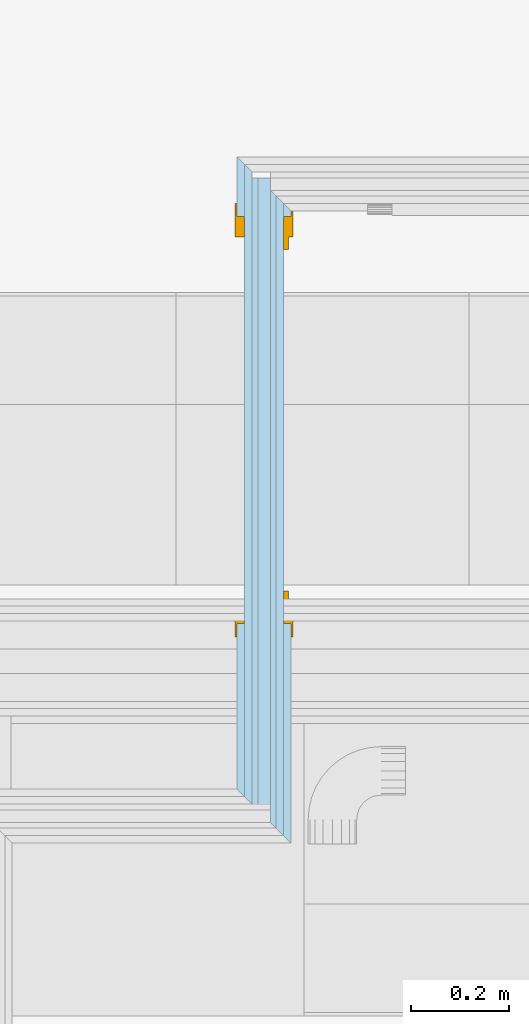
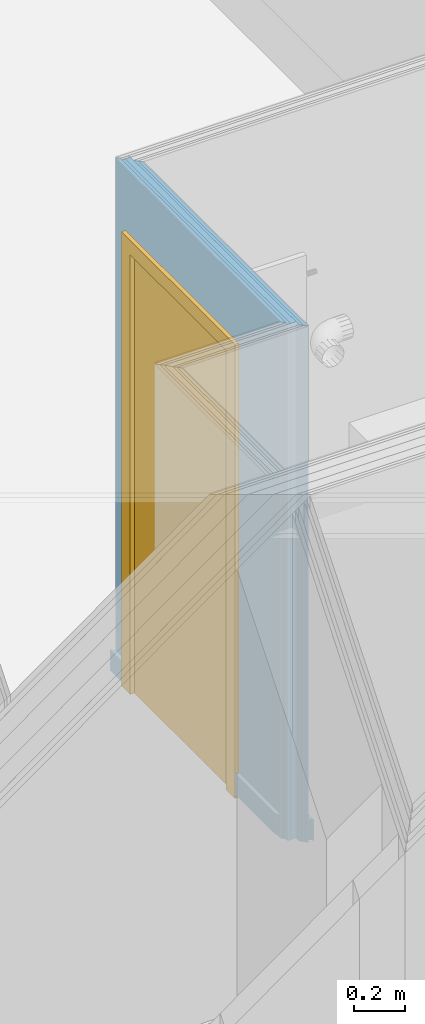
# One storey, part 90 of 169: 1 door, 1 opening, 1 element without a shape of its own, plus 7 elements that do not belong to this part.
"""IFC2X3 building model written with IfcOpenShell, lengths in metres."""

from ifc_helpers import new_model, entity, si_unit, converted_unit, derived_unit, money_unit, direction, frame, frame_2d, origin_with_axes, place, context, subcontext, project, spatial, polyline, rectangle, outline, extrude, faceted_brep, material, type_object, element, fill, aggregate, save


model = new_model("IFC2X3")

# Units and contexts
model_context = context("Model", 3, precision=1e-05, world=origin_with_axes(), true_north=direction((0.0, 1.0)))
body_context = subcontext(model_context, "Body", "Model", "MODEL_VIEW", scale=1.0)
ifc_project = project(units=[si_unit("LENGTHUNIT", "METRE"), si_unit("AREAUNIT", "SQUARE_METRE"), si_unit("VOLUMEUNIT", "CUBIC_METRE"), si_unit("ABSORBEDDOSEUNIT", "GRAY"), si_unit("AMOUNTOFSUBSTANCEUNIT", "MOLE"), si_unit("DOSEEQUIVALENTUNIT", "SIEVERT"), si_unit("ELECTRICCAPACITANCEUNIT", "FARAD"), si_unit("ELECTRICCHARGEUNIT", "COULOMB"), si_unit("ELECTRICCONDUCTANCEUNIT", "SIEMENS"), si_unit("ELECTRICCURRENTUNIT", "AMPERE"), si_unit("ELECTRICRESISTANCEUNIT", "OHM"), si_unit("ELECTRICVOLTAGEUNIT", "VOLT"), si_unit("ENERGYUNIT", "JOULE"), si_unit("FORCEUNIT", "NEWTON"), si_unit("FREQUENCYUNIT", "HERTZ"), si_unit("ILLUMINANCEUNIT", "LUX"), si_unit("INDUCTANCEUNIT", "HENRY"), si_unit("LUMINOUSFLUXUNIT", "LUMEN"), si_unit("LUMINOUSINTENSITYUNIT", "CANDELA"), si_unit("MAGNETICFLUXDENSITYUNIT", "TESLA"), si_unit("MAGNETICFLUXUNIT", "WEBER"), si_unit("MASSUNIT", "GRAM"), converted_unit("PLANEANGLEUNIT", "degree", entity("IfcReal", 0.0174532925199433), si_unit("PLANEANGLEUNIT", "RADIAN"), dimensions=[0, 0, 0, 0, 0, 0, 0]), si_unit("POWERUNIT", "WATT"), si_unit("PRESSUREUNIT", "PASCAL"), si_unit("RADIOACTIVITYUNIT", "BECQUEREL"), si_unit("SOLIDANGLEUNIT", "STERADIAN"), si_unit("THERMODYNAMICTEMPERATUREUNIT", "KELVIN"), si_unit("TIMEUNIT", "SECOND"), derived_unit("ACCELERATIONUNIT", [(si_unit("LENGTHUNIT", "METRE"), 1), (si_unit("TIMEUNIT", "SECOND"), -2)]), derived_unit("ANGULARVELOCITYUNIT", [(converted_unit("PLANEANGLEUNIT", "degree", entity("IfcReal", 0.0174532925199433), si_unit("PLANEANGLEUNIT", "RADIAN"), dimensions=[0, 0, 0, 0, 0, 0, 0]), 1), (si_unit("TIMEUNIT", "SECOND"), -1)]), derived_unit("CURVATUREUNIT", [(converted_unit("PLANEANGLEUNIT", "degree", entity("IfcReal", 0.0174532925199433), si_unit("PLANEANGLEUNIT", "RADIAN"), dimensions=[0, 0, 0, 0, 0, 0, 0]), 1), (si_unit("LENGTHUNIT", "METRE"), -1)]), derived_unit("DYNAMICVISCOSITYUNIT", [(si_unit("PRESSUREUNIT", "PASCAL"), 1), (si_unit("TIMEUNIT", "SECOND"), 1)]), derived_unit("HEATFLUXDENSITYUNIT", [(si_unit("POWERUNIT", "WATT"), 1), (si_unit("LENGTHUNIT", "METRE"), -2)]), derived_unit("HEATINGVALUEUNIT", [(si_unit("ENERGYUNIT", "JOULE"), 1), (si_unit("MASSUNIT", "GRAM"), -1)]), derived_unit("INTEGERCOUNTRATEUNIT", [(si_unit("TIMEUNIT", "SECOND"), -1)]), derived_unit("IONCONCENTRATIONUNIT", [(si_unit("MASSUNIT", "GRAM"), 1), (si_unit("VOLUMEUNIT", "CUBIC_METRE"), -1)]), derived_unit("ISOTHERMALMOISTURECAPACITYUNIT", [(si_unit("VOLUMEUNIT", "CUBIC_METRE"), 1), (si_unit("MASSUNIT", "GRAM"), -1)]), derived_unit("KINEMATICVISCOSITYUNIT", [(si_unit("AREAUNIT", "SQUARE_METRE"), 1), (si_unit("TIMEUNIT", "SECOND"), -1)]), derived_unit("LINEARFORCEUNIT", [(si_unit("FORCEUNIT", "NEWTON"), 1), (si_unit("LENGTHUNIT", "METRE"), -1)]), derived_unit("LINEARMOMENTUNIT", [(si_unit("FORCEUNIT", "NEWTON"), 1), (si_unit("LENGTHUNIT", "METRE"), -1)]), derived_unit("LINEARSTIFFNESSUNIT", [(si_unit("FORCEUNIT", "NEWTON"), 1), (si_unit("LENGTHUNIT", "METRE"), -1)]), derived_unit("LINEARVELOCITYUNIT", [(si_unit("LENGTHUNIT", "METRE"), 1), (si_unit("TIMEUNIT", "SECOND"), -1)]), derived_unit("LUMINOUSINTENSITYDISTRIBUTIONUNIT", [(si_unit("LUMINOUSINTENSITYUNIT", "CANDELA"), 1), (si_unit("LUMINOUSFLUXUNIT", "LUMEN"), -1)]), derived_unit("MASSDENSITYUNIT", [(si_unit("MASSUNIT", "GRAM"), 1), (si_unit("VOLUMEUNIT", "CUBIC_METRE"), -1)]), derived_unit("MASSFLOWRATEUNIT", [(si_unit("MASSUNIT", "GRAM"), 1), (si_unit("TIMEUNIT", "SECOND"), -1)]), derived_unit("MASSPERLENGTHUNIT", [(si_unit("MASSUNIT", "GRAM"), 1), (si_unit("LENGTHUNIT", "METRE"), -1)]), derived_unit("MODULUSOFELASTICITYUNIT", [(si_unit("FORCEUNIT", "NEWTON"), 1), (si_unit("AREAUNIT", "SQUARE_METRE"), -1)]), derived_unit("MODULUSOFLINEARSUBGRADEREACTIONUNIT", [(si_unit("FORCEUNIT", "NEWTON"), 1), (si_unit("LENGTHUNIT", "METRE"), -2)]), derived_unit("MODULUSOFROTATIONALSUBGRADEREACTIONUNIT", [(si_unit("FORCEUNIT", "NEWTON"), 1), (si_unit("LENGTHUNIT", "METRE"), 1)]), derived_unit("MODULUSOFSUBGRADEREACTIONUNIT", [(si_unit("FORCEUNIT", "NEWTON"), 1), (si_unit("VOLUMEUNIT", "CUBIC_METRE"), -1)]), derived_unit("MOISTUREDIFFUSIVITYUNIT", [(si_unit("VOLUMEUNIT", "CUBIC_METRE"), 1), (si_unit("TIMEUNIT", "SECOND"), -1)]), derived_unit("MOLECULARWEIGHTUNIT", [(si_unit("MASSUNIT", "GRAM"), 1), (si_unit("AMOUNTOFSUBSTANCEUNIT", "MOLE"), -1)]), derived_unit("PLANARFORCEUNIT", [(si_unit("FORCEUNIT", "NEWTON"), 1), (si_unit("LENGTHUNIT", "METRE"), -2)]), derived_unit("ROTATIONALFREQUENCYUNIT", [(si_unit("TIMEUNIT", "SECOND"), -1)]), derived_unit("ROTATIONALMASSUNIT", [(si_unit("MASSUNIT", "GRAM"), 1), (si_unit("LENGTHUNIT", "METRE"), 2)]), derived_unit("ROTATIONALSTIFFNESSUNIT", [(si_unit("FORCEUNIT", "NEWTON"), 1), (si_unit("LENGTHUNIT", "METRE"), 1), (converted_unit("PLANEANGLEUNIT", "degree", entity("IfcReal", 0.0174532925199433), si_unit("PLANEANGLEUNIT", "RADIAN"), dimensions=[0, 0, 0, 0, 0, 0, 0]), -1)]), derived_unit("SECTIONAREAINTEGRALUNIT", [(si_unit("LENGTHUNIT", "METRE"), 5)]), derived_unit("SECTIONMODULUSUNIT", [(si_unit("LENGTHUNIT", "METRE"), 3)]), derived_unit("SHEARMODULUSUNIT", [(si_unit("FORCEUNIT", "NEWTON"), 1), (si_unit("AREAUNIT", "SQUARE_METRE"), -1)]), derived_unit("SOUNDPOWERUNIT", [(si_unit("ENERGYUNIT", "JOULE"), 1), (si_unit("TIMEUNIT", "SECOND"), -1)]), derived_unit("SPECIFICHEATCAPACITYUNIT", [(si_unit("FORCEUNIT", "NEWTON"), 1), (si_unit("MASSUNIT", "GRAM"), -1), (si_unit("THERMODYNAMICTEMPERATUREUNIT", "KELVIN"), -1)]), derived_unit("TEMPERATUREGRADIENTUNIT", [(si_unit("THERMODYNAMICTEMPERATUREUNIT", "KELVIN"), 1), (si_unit("LENGTHUNIT", "METRE"), -1)]), derived_unit("THERMALADMITTANCEUNIT", [(si_unit("POWERUNIT", "WATT"), 1), (si_unit("AREAUNIT", "SQUARE_METRE"), -1), (si_unit("THERMODYNAMICTEMPERATUREUNIT", "KELVIN"), -1)]), derived_unit("THERMALCONDUCTANCEUNIT", [(si_unit("POWERUNIT", "WATT"), 1), (si_unit("LENGTHUNIT", "METRE"), -1), (si_unit("THERMODYNAMICTEMPERATUREUNIT", "KELVIN"), -1)]), derived_unit("THERMALEXPANSIONCOEFFICIENTUNIT", [(si_unit("THERMODYNAMICTEMPERATUREUNIT", "KELVIN"), -1)]), derived_unit("THERMALRESISTANCEUNIT", [(si_unit("AREAUNIT", "SQUARE_METRE"), 1), (si_unit("POWERUNIT", "WATT"), -1)]), derived_unit("THERMALTRANSMITTANCEUNIT", [(si_unit("POWERUNIT", "WATT"), 1), (si_unit("AREAUNIT", "SQUARE_METRE"), -1), (si_unit("THERMODYNAMICTEMPERATUREUNIT", "KELVIN"), -1)]), derived_unit("TORQUEUNIT", [(si_unit("FORCEUNIT", "NEWTON"), 1), (si_unit("LENGTHUNIT", "METRE"), 1)]), derived_unit("VAPORPERMEABILITYUNIT", [(si_unit("MASSUNIT", "GRAM"), 1), (si_unit("TIMEUNIT", "SECOND"), -1)]), derived_unit("VOLUMETRICFLOWRATEUNIT", [(si_unit("VOLUMEUNIT", "CUBIC_METRE"), 1), (si_unit("TIMEUNIT", "SECOND"), -1)]), derived_unit("WARPINGCONSTANTUNIT", [(si_unit("LENGTHUNIT", "METRE"), 6)]), derived_unit("WARPINGMOMENTUNIT", [(si_unit("FORCEUNIT", "NEWTON"), 1), (si_unit("LENGTHUNIT", "METRE"), 2)]), money_unit("GBP")], contexts=[model_context])

# Site, building, storey, space
site_placement = place(None, origin_with_axes())
site = spatial("IfcSite", under=ifc_project, at=site_placement, Name="Site", CompositionType="ELEMENT")
building_placement = place(site_placement, origin_with_axes())
building = spatial("IfcBuilding", under=site, at=building_placement, Name="Building01", CompositionType="ELEMENT")
storey_placement = place(building_placement, frame((0.0, 0.0, 5.15), z_axis=(0.0, 0.0, 1.0), x_axis=(1.0, 0.0, 0.0)))
storey = spatial("IfcBuildingStorey", under=building, at=storey_placement, Name="1F", CompositionType="ELEMENT", Elevation=5.15)
space_placement = place(storey_placement, frame((16.03844, 8.82, 9.86), z_axis=(0.0, 0.0, 1.0), x_axis=(0.0, -1.0, 0.0)))
space = spatial("IfcSpace", under=storey, at=space_placement, Name="23", CompositionType="ELEMENT", InteriorOrExteriorSpace="NOTDEFINED")

# Door
ifc_material_1 = material(Name="A_BSUK_Doors")
door_style = type_object("IfcDoorStyle", Name="A-Doors-SingleFlush", ConstructionType="USERDEFINED", OperationType="SINGLE_SWING_LEFT", ParameterTakesPrecedence=False, Sizeable=False)
wall_placement = place(storey_placement, frame((23.803, 8.401915, 9.83), z_axis=(0.0, 0.0, 1.0), x_axis=(0.0, 1.0, 0.0)))
opening_placement = place(wall_placement, frame((0.382109, -0.042, 0.0), z_axis=(0.0, 0.0, 1.0), x_axis=(1.0, 0.0, 0.0)))
door_placement = place(opening_placement, frame((0.042, 0.095, 0.0), z_axis=(0.0, 0.0, 1.0), x_axis=(1.0, 0.0, 0.0)))
door = element("IfcDoor", 1, at=door_placement, inside=space, type_object=door_style, material=ifc_material_1, Name="4.09", ObjectType="A-Doors-SingleFlush", OverallHeight=2.142, OverallWidth=0.834, context=body_context, shape_type="Brep", body=[
    faceted_brep([(0.0, -0.099, 2.1), (0.75, -0.099, 2.1), (0.75, -0.099, 0.0), (0.819, -0.099, 0.0), (0.819, -0.099, 2.169), (-0.069, -0.099, 2.169), (-0.069, -0.099, 0.0), (0.0, -0.099, 0.0), (0.819, -0.08, 2.169), (0.819, -0.08, 0.0), (-0.069, -0.08, 0.0), (-0.069, -0.08, 2.169), (-0.042, -0.08, 0.0), (-0.042, 0.0, 0.0), (-0.069, 0.0, 0.0), (-0.069, 0.019, 0.0), (0.0, 0.019, 0.0), (0.0, 0.019, 2.1), (0.75, 0.019, 2.1), (-0.069, 0.019, 2.169), (0.819, 0.019, 2.169), (0.819, 0.019, 0.0), (0.75, 0.019, 0.0), (-0.069, 0.0, 2.169), (-0.042, 0.0, 2.142), (-0.042, -0.08, 2.142), (0.792, 0.0, 2.142), (0.792, -0.08, 2.142), (0.792, -0.08, 0.0), (0.792, 0.0, 0.0), (0.819, 0.0, 0.0), (0.819, 0.0, 2.169)], [[[0, 1, 2, 3, 4, 5, 6, 7]], [[8, 4, 3, 9]], [[10, 6, 5, 11]], [[11, 5, 4, 8]], [[7, 6, 10, 12, 13, 14, 15, 16]], [[7, 16, 17, 0]], [[0, 17, 18, 1]], [[17, 16, 15, 19, 20, 21, 22, 18]], [[1, 18, 22, 2]], [[14, 23, 19, 15]], [[24, 13, 12, 25]], [[26, 24, 25, 27]], [[11, 8, 9, 28, 27, 25, 12, 10]], [[27, 28, 29, 26]], [[26, 29, 30, 31, 23, 14, 13, 24]], [[22, 21, 30, 29, 28, 9, 3, 2]], [[30, 21, 20, 31]], [[31, 20, 19, 23]]]),
    faceted_brep([(0.75, -0.09, 0.0), (0.75, -0.04, 0.0), (0.75, -0.04, 2.1), (0.75, -0.09, 2.1), (0.025, -0.09, 2.075), (0.725, -0.09, 2.075), (0.725, -0.09, 0.0), (0.0, -0.09, 2.1), (0.0, -0.09, 0.0), (0.025, -0.09, 0.0), (0.0, -0.04, 0.0), (0.025, -0.04, 0.0), (0.0, -0.04, 2.1), (0.025, -0.04, 2.075), (0.725, -0.04, 0.0), (0.725, -0.04, 2.075)], [[[0, 1, 2, 3]], [[4, 5, 6, 0, 3, 7, 8, 9]], [[9, 8, 10, 11]], [[3, 2, 12, 7]], [[7, 12, 10, 8]], [[13, 11, 10, 12, 2, 1, 14, 15]], [[5, 15, 14, 6]], [[14, 1, 0, 6]], [[9, 11, 13, 4]], [[4, 13, 15, 5]]]),
    faceted_brep([(0.0, -0.04, 2.1), (0.0, 0.0, 2.1), (0.0, 0.0, 0.0), (0.0, -0.04, 0.0), (0.75, -0.04, 0.0), (0.75, 0.0, 0.0), (0.75, 0.0, 2.1), (0.75, -0.04, 2.1)], [[[0, 1, 2, 3]], [[4, 5, 6, 7]], [[3, 2, 5, 4]], [[3, 4, 7, 0]], [[7, 6, 1, 0]], [[1, 6, 5, 2]]]),
])

# Wall, opening
wall_type = type_object("IfcWallType", Name="SHE_A-Walls_Type05b_Partition_80mm", PredefinedType="NOTDEFINED")
wall = element("IfcWall", 2, at=wall_placement, inside=storey, type_object=wall_type, Name="5B", ObjectType="SHE_A-Walls_Type05b_Partition_80mm")
opening = element("IfcOpeningElement", 3, at=opening_placement, cuts=wall, Name="Opening", ObjectType="Opening", context=body_context, shape_type="SweptSolid", body=[
    extrude(rectangle(XDim=0.834, YDim=2.142, at=frame_2d((-0.417, 1.071), x_axis=(1.0, 0.0))), frame((0.0, 0.0, 0.0), z_axis=(0.0, 1.0, 0.0), x_axis=(-1.0, 0.0, 0.0)), (0.0, 0.0, 1.0), 0.11),
])

fill(opening, door)

# Building element part
ifc_material_2 = material(Name="A_BSUK_Walls_Timber")
placement = place(wall_placement, origin_with_axes())
building_element_part_1 = element("IfcBuildingElementPart", 4, at=placement, material=ifc_material_2, Name="1", context=body_context, shape_type="SweptSolid", body=[
    extrude(outline(polyline([(1.243109, -0.027), (-0.052, -0.027), (-0.067, -0.042), (1.228109, -0.042), (1.243109, -0.027)])), frame((0.0, 0.0, 0.015), z_axis=(0.0, 0.0, 1.0), x_axis=(1.0, 0.0, 0.0)), (0.0, 0.0, 1.0), 0.1),
])

ifc_material_3 = material(Name="A_BSUK_WallInternal_Finishes_Plasterboard")
building_element_part_2 = element("IfcBuildingElementPart", 5, at=placement, material=ifc_material_3, Name="2", context=body_context, shape_type="SweptSolid", body=[
    extrude(outline(polyline([(1.258109, -0.012), (-0.037, -0.012), (-0.052, -0.027), (1.243109, -0.027), (1.258109, -0.012)])), origin_with_axes(), (0.0, 0.0, 1.0), 2.468),
])

ifc_material_4 = material(Name="Air Cavity")
building_element_part_3 = element("IfcBuildingElementPart", 6, at=placement, material=ifc_material_4, Name="3", context=body_context, shape_type="SweptSolid", body=[
    extrude(outline(polyline([(1.270109, 0.0), (-0.025, 0.0), (-0.037, -0.012), (1.258109, -0.012), (1.270109, 0.0)])), origin_with_axes(), (0.0, 0.0, 1.0), 2.468),
])

ifc_material_5 = material(Name="A_BSUK_Insulation")
building_element_part_4 = element("IfcBuildingElementPart", 7, at=placement, material=ifc_material_5, Name="4", context=body_context, shape_type="SweptSolid", body=[
    extrude(rectangle(XDim=1.295109, YDim=0.025, at=frame_2d((0.647555, 0.0125), x_axis=(-1.0, 0.0))), origin_with_axes(), (0.0, 0.0, 1.0), 2.468),
])

building_element_part_5 = element("IfcBuildingElementPart", 8, at=placement, material=ifc_material_4, Name="5", context=body_context, shape_type="SweptSolid", body=[
    extrude(rectangle(XDim=1.295109, YDim=0.013, at=frame_2d((0.647555, 0.0315), x_axis=(-1.0, 0.0))), origin_with_axes(), (0.0, 0.0, 1.0), 2.468),
])

building_element_part_6 = element("IfcBuildingElementPart", 9, at=placement, material=ifc_material_3, Name="6", context=body_context, shape_type="SweptSolid", body=[
    extrude(outline(polyline([(1.323109, 0.053), (0.028, 0.053), (0.013, 0.038), (1.308109, 0.038), (1.323109, 0.053)])), origin_with_axes(), (0.0, 0.0, 1.0), 2.468),
])

building_element_part_7 = element("IfcBuildingElementPart", 10, at=placement, material=ifc_material_2, Name="7", context=body_context, shape_type="SweptSolid", body=[
    extrude(outline(polyline([(1.338109, 0.068), (0.043, 0.068), (0.028, 0.053), (1.323109, 0.053), (1.338109, 0.068)])), frame((0.0, 0.0, 0.015), z_axis=(0.0, 0.0, 1.0), x_axis=(1.0, 0.0, 0.0)), (0.0, 0.0, 1.0), 0.1),
])

aggregate(wall, [building_element_part_1, building_element_part_2, building_element_part_3, building_element_part_4, building_element_part_5, building_element_part_6, building_element_part_7])

save(model, "model.ifc")
